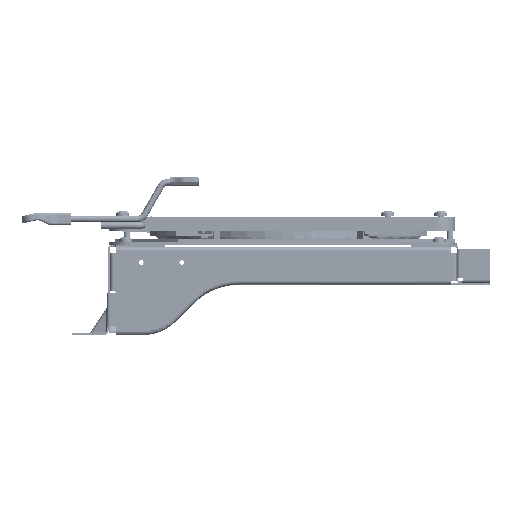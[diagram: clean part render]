
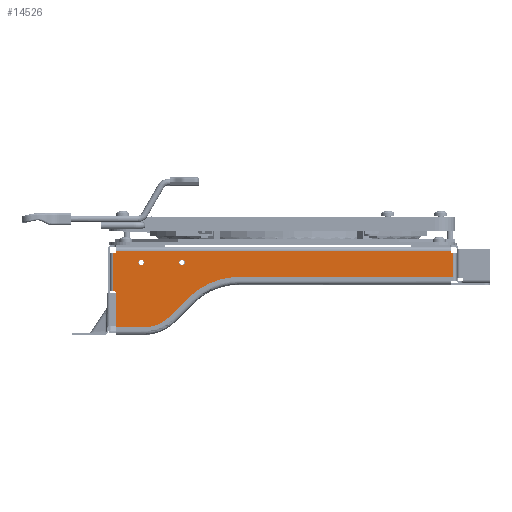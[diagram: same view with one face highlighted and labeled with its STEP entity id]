
A CAD part, front view. The second image highlights one B-rep face of the part: STEP entity #14526.
In plain terms, the highlighted planar face has unit normal (0, -1, 0).
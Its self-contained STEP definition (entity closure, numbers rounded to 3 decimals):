
#11101=VECTOR('Line Direction',#11100,1.) ;
#11376=VECTOR('Line Direction',#11375,1.) ;
#11414=VECTOR('Line Direction',#11413,1.) ;
#12024=VECTOR('Line Direction',#12023,1.) ;
#12224=VECTOR('Line Direction',#12223,1.) ;
#13860=VECTOR('Line Direction',#13859,1.) ;
#14103=VECTOR('Line Direction',#14102,1.) ;
#14291=VECTOR('Line Direction',#14290,1.) ;
#14412=VECTOR('Line Direction',#14411,1.) ;
#14433=VECTOR('Line Direction',#14432,1.) ;
#14465=VECTOR('Line Direction',#14464,1.) ;
#10902=DIRECTION('Axis2P3D Direction',(0.,1.,0.)) ;
#11100=DIRECTION('Vector Direction',(0.,0.,-1.)) ;
#11375=DIRECTION('Vector Direction',(0.,0.,1.)) ;
#11413=DIRECTION('Vector Direction',(-1.,0.,0.)) ;
#12023=DIRECTION('Vector Direction',(-1.,0.,0.)) ;
#12223=DIRECTION('Vector Direction',(0.,0.,-1.)) ;
#13859=DIRECTION('Vector Direction',(-1.,0.,0.)) ;
#14102=DIRECTION('Vector Direction',(0.,0.,1.)) ;
#14290=DIRECTION('Vector Direction',(-1.,0.,0.)) ;
#14321=DIRECTION('Axis2P3D Direction',(0.,1.,0.)) ;
#14340=DIRECTION('Axis2P3D Direction',(0.,1.,0.)) ;
#14375=DIRECTION('Axis2P3D Direction',(0.,1.,0.)) ;
#14411=DIRECTION('Vector Direction',(1.,0.,0.)) ;
#14432=DIRECTION('Vector Direction',(0.,0.,-1.)) ;
#14464=DIRECTION('Vector Direction',(1.,0.,0.)) ;
#14480=DIRECTION('Axis2P3D Direction',(0.,1.,0.)) ;
#14481=DIRECTION('Axis2P3D XDirection',(-1.,0.,0.)) ;
#10898=CARTESIAN_POINT('Vertex',(929.5,-876.,99.5)) ;
#10901=CARTESIAN_POINT('Axis2P3D Location',(933.,-876.,99.5)) ;
#10905=CARTESIAN_POINT('Vertex',(936.5,-876.,99.5)) ;
#11099=CARTESIAN_POINT('Line Origine',(901.5,-876.,112.625)) ;
#11103=CARTESIAN_POINT('Vertex',(901.5,-876.,114.25)) ;
#11105=CARTESIAN_POINT('Vertex',(901.5,-876.,111.)) ;
#11364=CARTESIAN_POINT('Vertex',(901.5,-876.,63.)) ;
#11371=CARTESIAN_POINT('Vertex',(901.5,-876.,20.)) ;
#11374=CARTESIAN_POINT('Line Origine',(901.5,-876.,41.5)) ;
#11409=CARTESIAN_POINT('Vertex',(899.5,-876.,65.)) ;
#11412=CARTESIAN_POINT('Line Origine',(899.,-876.,65.)) ;
#11416=CARTESIAN_POINT('Vertex',(898.5,-876.,65.)) ;
#11998=CARTESIAN_POINT('Vertex',(1053.424,-876.,81.75)) ;
#12019=CARTESIAN_POINT('Vertex',(1316.5,-876.,81.75)) ;
#12022=CARTESIAN_POINT('Line Origine',(1184.962,-876.,81.75)) ;
#12197=CARTESIAN_POINT('Control Point',(990.492,-876.,55.683)) ;
#12198=CARTESIAN_POINT('Control Point',(1000.377,-876.,65.568)) ;
#12199=CARTESIAN_POINT('Control Point',(1012.203,-876.,73.513)) ;
#12200=CARTESIAN_POINT('Control Point',(1025.464,-876.,79.006)) ;
#12201=CARTESIAN_POINT('Control Point',(1039.444,-876.,81.75)) ;
#12202=CARTESIAN_POINT('Control Point',(1053.424,-876.,81.75)) ;
#12203=CARTESIAN_POINT('Vertex',(990.492,-876.,55.683)) ;
#12222=CARTESIAN_POINT('Line Origine',(1316.5,-876.,96.375)) ;
#12226=CARTESIAN_POINT('Vertex',(1316.5,-876.,111.)) ;
#12254=CARTESIAN_POINT('Control Point',(990.492,-876.,55.683)) ;
#12255=CARTESIAN_POINT('Control Point',(967.696,-876.,32.887)) ;
#12256=CARTESIAN_POINT('Vertex',(967.696,-876.,32.887)) ;
#12319=CARTESIAN_POINT('Control Point',(967.696,-876.,32.887)) ;
#12320=CARTESIAN_POINT('Control Point',(961.587,-876.,26.778)) ;
#12321=CARTESIAN_POINT('Control Point',(953.871,-876.,22.265)) ;
#12322=CARTESIAN_POINT('Control Point',(945.223,-876.,20.)) ;
#12323=CARTESIAN_POINT('Control Point',(936.584,-876.,20.)) ;
#12324=CARTESIAN_POINT('Vertex',(936.584,-876.,20.)) ;
#13858=CARTESIAN_POINT('Line Origine',(919.042,-876.,20.)) ;
#14101=CARTESIAN_POINT('Line Origine',(898.5,-876.,88.)) ;
#14105=CARTESIAN_POINT('Vertex',(898.5,-876.,111.)) ;
#14289=CARTESIAN_POINT('Line Origine',(1107.5,-876.,114.25)) ;
#14293=CARTESIAN_POINT('Vertex',(1313.5,-876.,114.25)) ;
#14317=CARTESIAN_POINT('Vertex',(979.5,-876.,99.5)) ;
#14320=CARTESIAN_POINT('Axis2P3D Location',(983.,-876.,99.5)) ;
#14324=CARTESIAN_POINT('Vertex',(986.5,-876.,99.5)) ;
#14339=CARTESIAN_POINT('Axis2P3D Location',(983.,-876.,99.5)) ;
#14374=CARTESIAN_POINT('Axis2P3D Location',(899.5,-876.,63.)) ;
#14407=CARTESIAN_POINT('Vertex',(1313.5,-876.,111.)) ;
#14410=CARTESIAN_POINT('Line Origine',(1315.,-876.,111.)) ;
#14431=CARTESIAN_POINT('Line Origine',(1313.5,-876.,112.625)) ;
#14463=CARTESIAN_POINT('Line Origine',(900.,-876.,111.)) ;
#14479=CARTESIAN_POINT('Axis2P3D Location',(1407.85,-876.,3.05)) ;
#14502=CARTESIAN_POINT('Control Point',(929.5,-876.,99.5)) ;
#14503=CARTESIAN_POINT('Control Point',(929.5,-876.,100.05)) ;
#14504=CARTESIAN_POINT('Control Point',(929.608,-876.,100.6)) ;
#14505=CARTESIAN_POINT('Control Point',(929.824,-876.,101.121)) ;
#14506=CARTESIAN_POINT('Control Point',(930.449,-876.,102.052)) ;
#14507=CARTESIAN_POINT('Control Point',(931.379,-876.,102.676)) ;
#14508=CARTESIAN_POINT('Control Point',(931.9,-876.,102.892)) ;
#14509=CARTESIAN_POINT('Control Point',(933.,-876.,103.108)) ;
#14510=CARTESIAN_POINT('Control Point',(934.1,-876.,102.892)) ;
#14511=CARTESIAN_POINT('Control Point',(934.621,-876.,102.676)) ;
#14512=CARTESIAN_POINT('Control Point',(935.551,-876.,102.052)) ;
#14513=CARTESIAN_POINT('Control Point',(936.176,-876.,101.121)) ;
#14514=CARTESIAN_POINT('Control Point',(936.392,-876.,100.6)) ;
#14515=CARTESIAN_POINT('Control Point',(936.5,-876.,100.05)) ;
#14516=CARTESIAN_POINT('Control Point',(936.5,-876.,99.5)) ;
#10903=AXIS2_PLACEMENT_3D('Circle Axis2P3D',#10901,#10902,$) ;
#14322=AXIS2_PLACEMENT_3D('Circle Axis2P3D',#14320,#14321,$) ;
#14341=AXIS2_PLACEMENT_3D('Circle Axis2P3D',#14339,#14340,$) ;
#14376=AXIS2_PLACEMENT_3D('Circle Axis2P3D',#14374,#14375,$) ;
#14482=AXIS2_PLACEMENT_3D('Plane Axis2P3D',#14479,#14480,#14481) ;
#14521=FACE_BOUND('',#14518,.T.) ;
#14525=FACE_BOUND('',#14522,.T.) ;
#10907=EDGE_CURVE('',#10906,#10899,#10904,.T.) ;
#11107=EDGE_CURVE('',#11104,#11106,#11102,.T.) ;
#11378=EDGE_CURVE('',#11372,#11365,#11377,.T.) ;
#11418=EDGE_CURVE('',#11410,#11417,#11415,.T.) ;
#12026=EDGE_CURVE('',#12020,#11999,#12025,.T.) ;
#12205=EDGE_CURVE('',#12204,#11999,#12196,.T.) ;
#12228=EDGE_CURVE('',#12227,#12020,#12225,.T.) ;
#12258=EDGE_CURVE('',#12204,#12257,#12253,.T.) ;
#12326=EDGE_CURVE('',#12257,#12325,#12318,.T.) ;
#13862=EDGE_CURVE('',#12325,#11372,#13861,.T.) ;
#14107=EDGE_CURVE('',#11417,#14106,#14104,.T.) ;
#14295=EDGE_CURVE('',#14294,#11104,#14292,.T.) ;
#14326=EDGE_CURVE('',#14325,#14318,#14323,.T.) ;
#14343=EDGE_CURVE('',#14318,#14325,#14342,.T.) ;
#14378=EDGE_CURVE('',#11365,#11410,#14377,.F.) ;
#14414=EDGE_CURVE('',#14408,#12227,#14413,.T.) ;
#14435=EDGE_CURVE('',#14294,#14408,#14434,.T.) ;
#14467=EDGE_CURVE('',#14106,#11106,#14466,.T.) ;
#14517=EDGE_CURVE('',#10899,#10906,#14501,.T.) ;
#14483=PLANE('Plane',#14482) ;
#14485=ORIENTED_EDGE('',*,*,#12026,.F.) ;
#14486=ORIENTED_EDGE('',*,*,#12228,.F.) ;
#14487=ORIENTED_EDGE('',*,*,#14414,.F.) ;
#14488=ORIENTED_EDGE('',*,*,#14435,.F.) ;
#14489=ORIENTED_EDGE('',*,*,#14295,.T.) ;
#14490=ORIENTED_EDGE('',*,*,#11107,.T.) ;
#14491=ORIENTED_EDGE('',*,*,#14467,.F.) ;
#14492=ORIENTED_EDGE('',*,*,#14107,.F.) ;
#14493=ORIENTED_EDGE('',*,*,#11418,.F.) ;
#14494=ORIENTED_EDGE('',*,*,#14378,.F.) ;
#14495=ORIENTED_EDGE('',*,*,#11378,.F.) ;
#14496=ORIENTED_EDGE('',*,*,#13862,.F.) ;
#14497=ORIENTED_EDGE('',*,*,#12326,.F.) ;
#14498=ORIENTED_EDGE('',*,*,#12258,.F.) ;
#14499=ORIENTED_EDGE('',*,*,#12205,.T.) ;
#14519=ORIENTED_EDGE('',*,*,#10907,.T.) ;
#14520=ORIENTED_EDGE('',*,*,#14517,.T.) ;
#14523=ORIENTED_EDGE('',*,*,#14326,.T.) ;
#14524=ORIENTED_EDGE('',*,*,#14343,.T.) ;
#11102=LINE('Line',#11099,#11101) ;
#11377=LINE('Line',#11374,#11376) ;
#11415=LINE('Line',#11412,#11414) ;
#12025=LINE('Line',#12022,#12024) ;
#12225=LINE('Line',#12222,#12224) ;
#13861=LINE('Line',#13858,#13860) ;
#14104=LINE('Line',#14101,#14103) ;
#14292=LINE('Line',#14289,#14291) ;
#14413=LINE('Line',#14410,#14412) ;
#14434=LINE('Line',#14431,#14433) ;
#14466=LINE('Line',#14463,#14465) ;
#14526=ADVANCED_FACE('\X2\96F64EF651E04F554F53\X0\',(#14500,#14521,#14525),#14483,.F.) ;
#10904=CIRCLE('generated circle',#10903,3.5) ;
#14323=CIRCLE('generated circle',#14322,3.5) ;
#14342=CIRCLE('generated circle',#14341,3.5) ;
#14377=CIRCLE('generated circle',#14376,2.) ;
#10899=VERTEX_POINT('',#10898) ;
#10906=VERTEX_POINT('',#10905) ;
#11104=VERTEX_POINT('',#11103) ;
#11106=VERTEX_POINT('',#11105) ;
#11365=VERTEX_POINT('',#11364) ;
#11372=VERTEX_POINT('',#11371) ;
#11410=VERTEX_POINT('',#11409) ;
#11417=VERTEX_POINT('',#11416) ;
#11999=VERTEX_POINT('',#11998) ;
#12020=VERTEX_POINT('',#12019) ;
#12204=VERTEX_POINT('',#12203) ;
#12227=VERTEX_POINT('',#12226) ;
#12257=VERTEX_POINT('',#12256) ;
#12325=VERTEX_POINT('',#12324) ;
#14106=VERTEX_POINT('',#14105) ;
#14294=VERTEX_POINT('',#14293) ;
#14318=VERTEX_POINT('',#14317) ;
#14325=VERTEX_POINT('',#14324) ;
#14408=VERTEX_POINT('',#14407) ;
#12196=B_SPLINE_CURVE_WITH_KNOTS('',5,(#12197,#12198,#12199,#12200,#12201,#12202),.UNSPECIFIED.,.F.,.U.,(6,6),(0.,98.854),.UNSPECIFIED.) ;
#12253=B_SPLINE_CURVE_WITH_KNOTS('',1,(#12254,#12255),.UNSPECIFIED.,.F.,.U.,(2,2),(-16.119,16.119),.UNSPECIFIED.) ;
#12318=B_SPLINE_CURVE_WITH_KNOTS('',4,(#12319,#12320,#12321,#12322,#12323),.UNSPECIFIED.,.F.,.U.,(5,5),(0.,48.871),.UNSPECIFIED.) ;
#14501=B_SPLINE_CURVE_WITH_KNOTS('',5,(#14502,#14503,#14504,#14505,#14506,#14507,#14508,#14509,#14510,#14511,#14512,#14513,#14514,#14515,#14516),.UNSPECIFIED.,.F.,.U.,(6,3,3,3,6),(0.,2.749,5.498,8.247,10.996),.UNSPECIFIED.) ;
#14484=EDGE_LOOP('',(#14485,#14486,#14487,#14488,#14489,#14490,#14491,#14492,#14493,#14494,#14495,#14496,#14497,#14498,#14499)) ;
#14518=EDGE_LOOP('',(#14519,#14520)) ;
#14522=EDGE_LOOP('',(#14523,#14524)) ;
#14500=FACE_OUTER_BOUND('',#14484,.T.) ;
